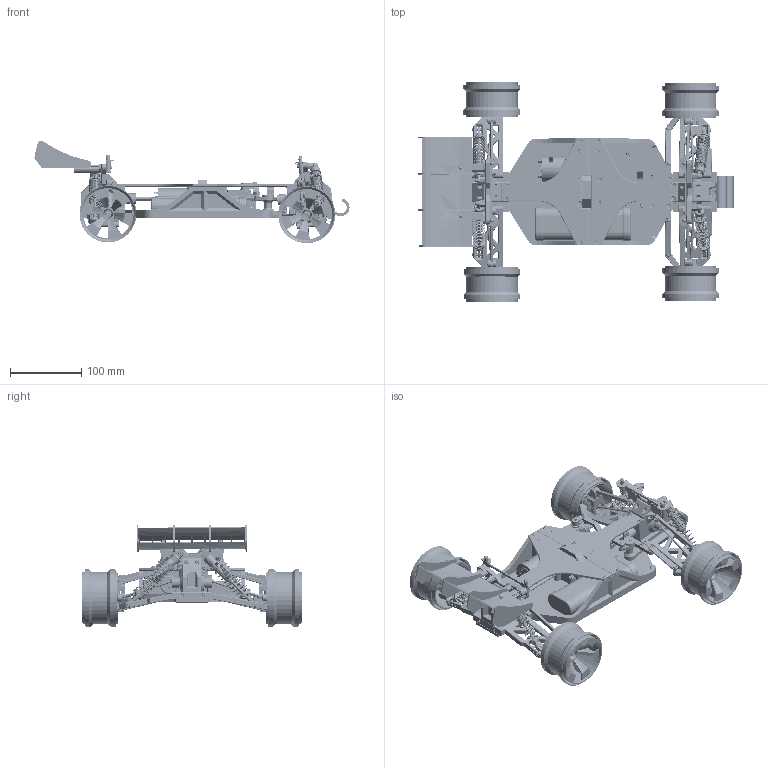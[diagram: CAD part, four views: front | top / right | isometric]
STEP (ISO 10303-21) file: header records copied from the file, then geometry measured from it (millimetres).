
FILE_DESCRIPTION(('STEP AP214'),'1');
FILE_NAME('C:/Users/dn/Documents/OpenRC Truggy Assy.B.3.stp','2013-05-01T14:44:06',(' '),(' '),'Spatial InterOp 3D',' ',' ');
FILE_SCHEMA(('automotive_design'));
Length unit declared in the file: millimetre
Products named in the file (158): OpenRC Truggy Assy; Left Shield; Right Shield; Top Deck Front; Top Deck Rear; Hexagon Socket Countersunk Head Screw ISO 10642 - M3 × 8; Hexagon Socket Pan Head Cap Screw ISO 7380 - M3 × 10; Bumper; Hexagon Socket Countersunk Head Screw ISO 10642 - M3 × 10; Steering Pin; Servo Arm; Battery; Pin 2x10; Wheel Spacer; Rim; Hexagon Nut ISO 4032 - M4; Simple Body Holder; Hexagon Socket Pan Head Cap Screw ISO 7380 - M3 × 12; Hexagon Socket Pan Head Cap Screw ISO 7380 - M3 × 8; Wing Holder; Part 965 (Mirror); Wing; Chassie Plate; Chassie Plate Rear; Chassie Plate Front; Center Diff Assy; Central Diff Case; Hexagon Socket Countersunk Head Screw ISO 10642 - M3 × 12; Central Differential Assy; Diff Case.Shape 2; Axle Shaft; Bearing 10x15x4; Hexagon Socket Countersunk Head Screw ISO 10642 - M3 × 16; Axle Shaft Cover; Diff Gears Assy; Bevel-Gear-Part1_A1016M16-1_Mekanex_A1016M16-1_Mekanex; Bevel-Gear-Part2_A1016M16-1_Mekanex_A1016M16-1_Mekanex; Differential Shaft; Motor Gear; Spur Gear Drilled - m=0,7 Z=65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
Assembly tree (298 placements, depth 6):
  OpenRC Truggy Assy
    Left Shield
    Right Shield
    Top Deck Front
    Top Deck Rear
    Hexagon Socket Countersunk Head Screw ISO 10642 - M3 × 8  x39
    Hexagon Socket Pan Head Cap Screw ISO 7380 - M3 × 10  x4
    Bumper
    Hexagon Socket Countersunk Head Screw ISO 10642 - M3 × 10  x2
    Steering Pin  x2
    Servo Arm
    Battery
    Pin 2x10  x4
    Wheel Spacer  x4
    Rim  x4
    Hexagon Nut ISO 4032 - M4  x4
    Simple Body Holder  x2
    Hexagon Socket Pan Head Cap Screw ISO 7380 - M3 × 12  x4
    Hexagon Socket Pan Head Cap Screw ISO 7380 - M3 × 8  x2
    Wing Holder
    Part 965 (Mirror)
    Wing
    Chassie Plate
      Chassie Plate Rear
      Chassie Plate Front
    Center Diff Assy
      Central Diff Case
      Central Diff Case
      Hexagon Socket Countersunk Head Screw ISO 10642 - M3 × 12  x4
      Central Differential Assy
        Diff Case.Shape 2
        Axle Shaft  x2
        Bearing 10x15x4  x2
        Hexagon Socket Countersunk Head Screw ISO 10642 - M3 × 8  x2
        Hexagon Socket Countersunk Head Screw ISO 10642 - M3 × 16  x2
        Axle Shaft Cover  x2
        Diff Gears Assy
          Bevel-Gear-Part1_A1016M16-1_Mekanex_A1016M16-1_Mekanex  x2
          Bevel-Gear-Part2_A1016M16-1_Mekanex_A1016M16-1_Mekanex  x2
          Differential Shaft
        Motor Gear
          Spur Gear Drilled - m=0,7 Z=65
      Motor With Spur Gear - Copy
        Motor
          Casing
          Back Plate
          Part 233
          Axle
          Part 235  x2
        Spur Gear 20T
          Spur Gear Drilled with Boss - m=0,7 Z=20
    Servo Saver Assembly
      Pivot Shaft  x2
      Servo Saver Part 2
      Servo Saver Part 1
      5mm Ball Joint  x3
      Steering Plate
      Hexagon Socket Countersunk Head Screw ISO 10642 - M3 × 8  x4
      Stabilizer
    Servoholder Assy
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Bounding box: 441.9 x 309.08 x 143.66 mm (x, y, z)
Volume: 1053117.9 mm3; surface area: 752402.9 mm2
Topology: 350 solids, 362 shells, 14827 faces, 38956 edges, 24635 vertices
Faces by surface type: plane 4779, cylinder 4310, cone 2062, bspline 1736, torus 1090, sphere 680, extrusion 170
Full cylindrical faces by diameter (mm): 6.023 x4
Entity records: 273709 total; most frequent: CARTESIAN_POINT 96478, ORIENTED_EDGE 27714, DIRECTION 27430, EDGE_CURVE 13857, AXIS2_PLACEMENT_3D 10568, VERTEX_POINT 8854, VECTOR 6294, LINE 6124
